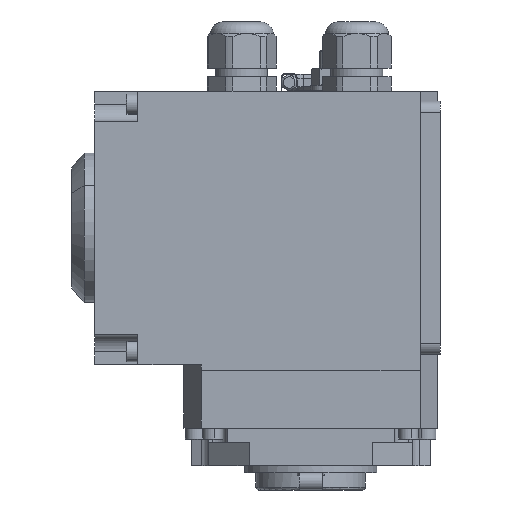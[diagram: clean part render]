
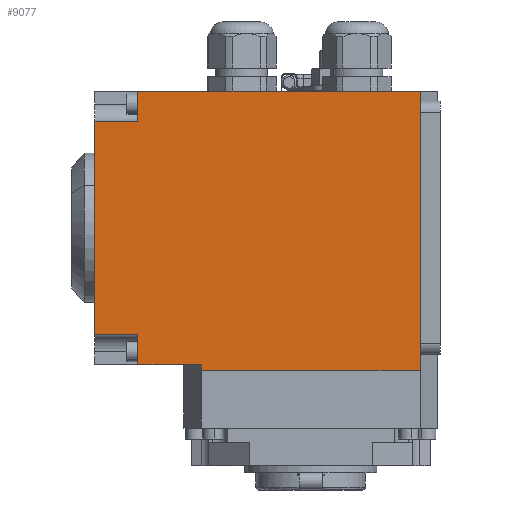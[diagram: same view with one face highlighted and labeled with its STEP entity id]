
A CAD part, left-side view. The second image highlights one B-rep face of the part: STEP entity #9077.
In plain terms, the highlighted planar face has unit normal (-1, 0, 0).
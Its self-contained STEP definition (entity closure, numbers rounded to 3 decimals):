
#149 = VERTEX_POINT ( 'NONE', #15191 ) ;
#273 = CARTESIAN_POINT ( 'NONE',  ( -94.5, 60., 5. ) ) ;
#276 = EDGE_CURVE ( 'NONE', #5541, #1356, #12912, .T. ) ;
#316 = ORIENTED_EDGE ( 'NONE', *, *, #6657, .F. ) ;
#837 = CARTESIAN_POINT ( 'NONE',  ( -94.5, 38., 5. ) ) ;
#1059 = LINE ( 'NONE', #10725, #13180 ) ;
#1073 = VERTEX_POINT ( 'NONE', #273 ) ;
#1179 = DIRECTION ( 'NONE',  ( 0., -1., 0. ) ) ;
#1356 = VERTEX_POINT ( 'NONE', #16935 ) ;
#1752 = CARTESIAN_POINT ( 'NONE',  ( -94.5, 60., 5. ) ) ;
#2534 = CARTESIAN_POINT ( 'NONE',  ( -94.5, -38., 3. ) ) ;
#2765 = DIRECTION ( 'NONE',  ( 0., 0., -1. ) ) ;
#2807 = ORIENTED_EDGE ( 'NONE', *, *, #11258, .T. ) ;
#2932 = VECTOR ( 'NONE', #14505, 1000. ) ;
#3634 = CARTESIAN_POINT ( 'NONE',  ( -94.5, 38., 100. ) ) ;
#3740 = VECTOR ( 'NONE', #14057, 1000. ) ;
#4143 = ORIENTED_EDGE ( 'NONE', *, *, #11867, .F. ) ;
#4191 = EDGE_CURVE ( 'NONE', #149, #18299, #13562, .T. ) ;
#4378 = CARTESIAN_POINT ( 'NONE',  ( -94.5, -38., 100. ) ) ;
#4421 = EDGE_CURVE ( 'NONE', #18299, #10676, #19223, .T. ) ;
#4659 = VECTOR ( 'NONE', #7417, 1000. ) ;
#5116 = VECTOR ( 'NONE', #14750, 1000. ) ;
#5159 = VECTOR ( 'NONE', #12082, 1000. ) ;
#5476 = VECTOR ( 'NONE', #11635, 1000. ) ;
#5541 = VERTEX_POINT ( 'NONE', #837 ) ;
#6657 = EDGE_CURVE ( 'NONE', #14007, #7982, #7495, .T. ) ;
#7120 = FACE_OUTER_BOUND ( 'NONE', #17621, .T. ) ;
#7402 = PLANE ( 'NONE',  #14918 ) ;
#7417 = DIRECTION ( 'NONE',  ( 0., -1., 0. ) ) ;
#7495 = LINE ( 'NONE', #9349, #2932 ) ;
#7555 = EDGE_CURVE ( 'NONE', #1073, #5541, #11472, .T. ) ;
#7888 = CARTESIAN_POINT ( 'NONE',  ( -94.5, 75., 15.5 ) ) ;
#7914 = CARTESIAN_POINT ( 'NONE',  ( -94.5, -45., 3. ) ) ;
#7982 = VERTEX_POINT ( 'NONE', #15415 ) ;
#8916 = ORIENTED_EDGE ( 'NONE', *, *, #4191, .F. ) ;
#8925 = CARTESIAN_POINT ( 'NONE',  ( -94.5, 75., 100. ) ) ;
#9077 = ADVANCED_FACE ( 'NONE', ( #7120 ), #7402, .F. ) ;
#9086 = VERTEX_POINT ( 'NONE', #10743 ) ;
#9241 = EDGE_CURVE ( 'NONE', #10676, #1356, #10069, .T. ) ;
#9349 = CARTESIAN_POINT ( 'NONE',  ( -94.5, 75., 5. ) ) ;
#9595 = CARTESIAN_POINT ( 'NONE',  ( -94.5, 60., 5. ) ) ;
#10069 = LINE ( 'NONE', #7914, #5476 ) ;
#10268 = CARTESIAN_POINT ( 'NONE',  ( -94.5, 60., 89.5 ) ) ;
#10676 = VERTEX_POINT ( 'NONE', #2534 ) ;
#10725 = CARTESIAN_POINT ( 'NONE',  ( -94.5, 75., 89.5 ) ) ;
#10743 = CARTESIAN_POINT ( 'NONE',  ( -94.5, 60., 15.5 ) ) ;
#10823 = CARTESIAN_POINT ( 'NONE',  ( -94.5, 75., 5. ) ) ;
#11186 = CARTESIAN_POINT ( 'NONE',  ( -94.5, 75., 15.5 ) ) ;
#11240 = DIRECTION ( 'NONE',  ( 0., -1., 0. ) ) ;
#11258 = EDGE_CURVE ( 'NONE', #14007, #9086, #21613, .T. ) ;
#11472 = LINE ( 'NONE', #11647, #16355 ) ;
#11635 = DIRECTION ( 'NONE',  ( 0., 1., 0. ) ) ;
#11647 = CARTESIAN_POINT ( 'NONE',  ( -94.5, 75., 5. ) ) ;
#11867 = EDGE_CURVE ( 'NONE', #18078, #149, #17503, .T. ) ;
#12082 = DIRECTION ( 'NONE',  ( 0., 0., -1. ) ) ;
#12235 = EDGE_CURVE ( 'NONE', #18078, #7982, #1059, .T. ) ;
#12836 = ORIENTED_EDGE ( 'NONE', *, *, #7555, .T. ) ;
#12912 = LINE ( 'NONE', #3634, #3740 ) ;
#13138 = ORIENTED_EDGE ( 'NONE', *, *, #276, .T. ) ;
#13180 = VECTOR ( 'NONE', #14279, 1000. ) ;
#13562 = LINE ( 'NONE', #8925, #4659 ) ;
#14007 = VERTEX_POINT ( 'NONE', #11186 ) ;
#14057 = DIRECTION ( 'NONE',  ( 0., 0., -1. ) ) ;
#14279 = DIRECTION ( 'NONE',  ( 0., 1., 0. ) ) ;
#14358 = LINE ( 'NONE', #1752, #5159 ) ;
#14505 = DIRECTION ( 'NONE',  ( 0., 0., 1. ) ) ;
#14648 = ORIENTED_EDGE ( 'NONE', *, *, #22079, .T. ) ;
#14750 = DIRECTION ( 'NONE',  ( 0., 0., 1. ) ) ;
#14918 = AXIS2_PLACEMENT_3D ( 'NONE', #10823, #21218, #16174 ) ;
#15191 = CARTESIAN_POINT ( 'NONE',  ( -94.5, 60., 100. ) ) ;
#15415 = CARTESIAN_POINT ( 'NONE',  ( -94.5, 75., 89.5 ) ) ;
#16174 = DIRECTION ( 'NONE',  ( 0., -1., 0. ) ) ;
#16355 = VECTOR ( 'NONE', #1179, 1000. ) ;
#16935 = CARTESIAN_POINT ( 'NONE',  ( -94.5, 38., 3. ) ) ;
#17021 = VECTOR ( 'NONE', #11240, 1000. ) ;
#17256 = ORIENTED_EDGE ( 'NONE', *, *, #9241, .F. ) ;
#17503 = LINE ( 'NONE', #9595, #5116 ) ;
#17621 = EDGE_LOOP ( 'NONE', ( #2807, #14648, #12836, #13138, #17256, #20493, #8916, #4143, #19985, #316 ) ) ;
#18078 = VERTEX_POINT ( 'NONE', #10268 ) ;
#18299 = VERTEX_POINT ( 'NONE', #4378 ) ;
#18967 = VECTOR ( 'NONE', #2765, 1000. ) ;
#19223 = LINE ( 'NONE', #20089, #18967 ) ;
#19985 = ORIENTED_EDGE ( 'NONE', *, *, #12235, .T. ) ;
#20089 = CARTESIAN_POINT ( 'NONE',  ( -94.5, -38., 100. ) ) ;
#20493 = ORIENTED_EDGE ( 'NONE', *, *, #4421, .F. ) ;
#21218 = DIRECTION ( 'NONE',  ( 1., 0., 0. ) ) ;
#21613 = LINE ( 'NONE', #7888, #17021 ) ;
#22079 = EDGE_CURVE ( 'NONE', #9086, #1073, #14358, .T. ) ;
